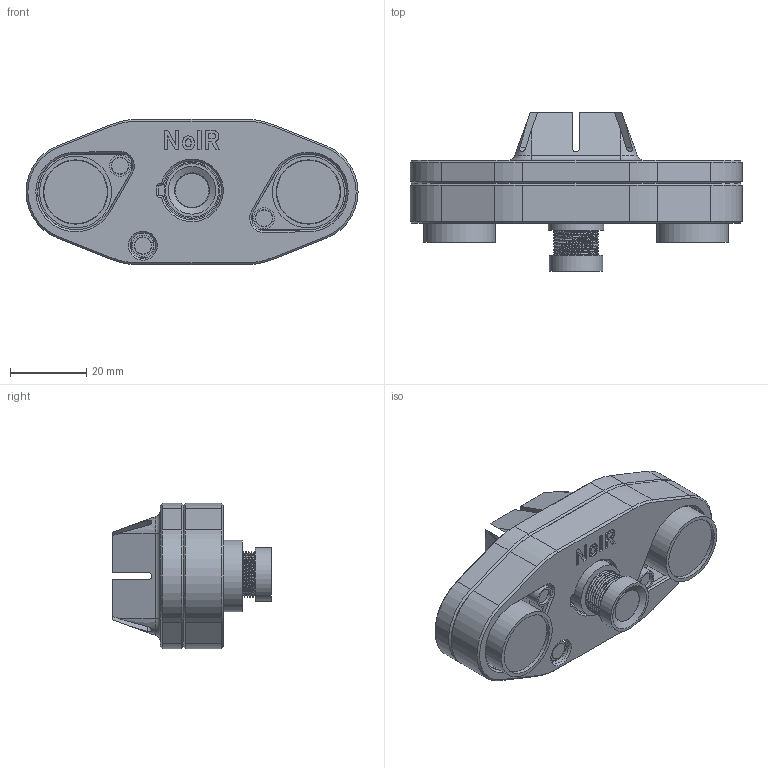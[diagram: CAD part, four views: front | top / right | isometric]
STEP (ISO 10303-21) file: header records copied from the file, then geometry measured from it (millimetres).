
FILE_DESCRIPTION(/* description */ (''),/* implementation_level */ '2;1');
FILE_NAME(/* name */ 'C:/Users/Paul/Desktop/NoIR Camera Housing v13.step',/* time_stamp */ '2022-04-24T17:24:59+02:00',/* author */ (''),/* organization */ (''),/* preprocessor_version */ 'ST-DEVELOPER v18.1',/* originating_system */ 'Autodesk Translation Framework v10.14.0.1471',/* authorisation */ '');
FILE_SCHEMA (('AUTOMOTIVE_DESIGN { 1 0 10303 214 3 1 1 }'));
Length unit declared in the file: millimetre
Products named in the file (7): NoIR Camera Housing; Camera Body; Component5; Component6; Top Body; Bottom Body; raspicamback v4
Assembly tree (6 placements, depth 3):
  NoIR Camera Housing
    Camera Body
      Component5
      Component6
    Top Body
    Bottom Body
      raspicamback v4
Bounding box: 87.05 x 41.6 x 38.15 mm (x, y, z)
Volume: 39885.1 mm3; surface area: 29601.2 mm2
Topology: 11 solids, 11 shells, 450 faces, 1091 edges, 695 vertices
Faces by surface type: plane 220, cylinder 139, cone 47, bspline 28, torus 15, sphere 1
Full cylindrical faces by diameter (mm): 2.9 x4, 3.4 x4, 3.5 x2, 4.3 x2, 4.4 x1, 4.5 x2, 4.6 x1, 5.5 x4, 5.6 x1, 5.8 x4, 6 x1, 6.6 x1, 8.9 x1, 9.2 x1, 11.044 x8, 11.908 x8, 14 x1, 14.6 x1, 16.65 x2, 16.85 x2, 18.85 x2, 24 x1
Entity records: 16061 total; most frequent: CARTESIAN_POINT 5372, ORIENTED_EDGE 2178, DIRECTION 2142, EDGE_CURVE 1089, AXIS2_PLACEMENT_3D 759, VERTEX_POINT 695, LINE 624, VECTOR 624
